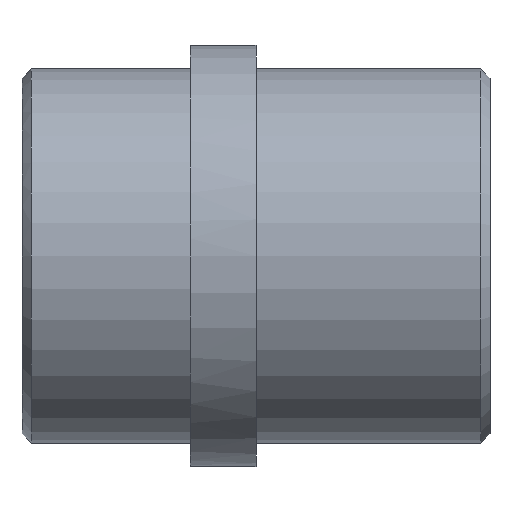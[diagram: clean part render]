
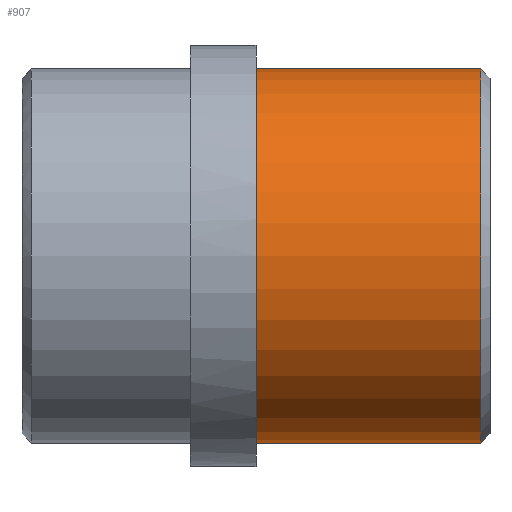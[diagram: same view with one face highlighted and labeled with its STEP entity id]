
A CAD part, front view. The second image highlights one B-rep face of the part: STEP entity #907.
In plain terms, the highlighted cylindrical face has radius 20 mm (diameter 40 mm), a partial arc.
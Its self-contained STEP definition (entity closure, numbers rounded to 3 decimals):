
#773=CARTESIAN_POINT('Vertex',(0.,0.,-20.)) ;
#778=CARTESIAN_POINT('Axis2P3D Location',(0.,0.,0.)) ;
#782=CARTESIAN_POINT('Vertex',(0.,-20.,0.)) ;
#785=CARTESIAN_POINT('Axis2P3D Location',(0.,0.,0.)) ;
#789=CARTESIAN_POINT('Vertex',(0.,0.,20.)) ;
#813=CARTESIAN_POINT('Vertex',(24.,0.,20.)) ;
#820=CARTESIAN_POINT('Vertex',(24.,0.,-20.)) ;
#849=CARTESIAN_POINT('Axis2P3D Location',(24.,0.,0.)) ;
#853=CARTESIAN_POINT('Vertex',(24.,-20.,0.)) ;
#856=CARTESIAN_POINT('Axis2P3D Location',(24.,0.,0.)) ;
#875=CARTESIAN_POINT('Line Origine',(25.,0.,20.)) ;
#880=CARTESIAN_POINT('Line Origine',(25.,0.,-20.)) ;
#894=CARTESIAN_POINT('Axis2P3D Location',(25.,0.,0.)) ;
#779=DIRECTION('Axis2P3D Direction',(1.,0.,-0.)) ;
#786=DIRECTION('Axis2P3D Direction',(1.,0.,-0.)) ;
#850=DIRECTION('Axis2P3D Direction',(-1.,0.,0.)) ;
#857=DIRECTION('Axis2P3D Direction',(-1.,0.,0.)) ;
#876=DIRECTION('Vector Direction',(-1.,0.,0.)) ;
#881=DIRECTION('Vector Direction',(-1.,0.,0.)) ;
#895=DIRECTION('Axis2P3D Direction',(-1.,-0.,-0.)) ;
#896=DIRECTION('Axis2P3D XDirection',(0.,0.,-1.)) ;
#780=AXIS2_PLACEMENT_3D('Circle Axis2P3D',#778,#779,$) ;
#787=AXIS2_PLACEMENT_3D('Circle Axis2P3D',#785,#786,$) ;
#851=AXIS2_PLACEMENT_3D('Circle Axis2P3D',#849,#850,$) ;
#858=AXIS2_PLACEMENT_3D('Circle Axis2P3D',#856,#857,$) ;
#897=AXIS2_PLACEMENT_3D('Cylinder Axis2P3D',#894,#895,#896) ;
#900=ORIENTED_EDGE('',*,*,#884,.T.) ;
#901=ORIENTED_EDGE('',*,*,#860,.F.) ;
#902=ORIENTED_EDGE('',*,*,#855,.F.) ;
#903=ORIENTED_EDGE('',*,*,#879,.T.) ;
#904=ORIENTED_EDGE('',*,*,#791,.T.) ;
#905=ORIENTED_EDGE('',*,*,#784,.T.) ;
#877=VECTOR('Line Direction',#876,1.) ;
#882=VECTOR('Line Direction',#881,1.) ;
#907=ADVANCED_FACE('354-32X50',(#906),#898,.T.) ;
#781=CIRCLE('generated circle',#780,20.) ;
#788=CIRCLE('generated circle',#787,20.) ;
#852=CIRCLE('generated circle',#851,20.) ;
#859=CIRCLE('generated circle',#858,20.) ;
#898=CYLINDRICAL_SURFACE('generated cylinder',#897,20.) ;
#784=EDGE_CURVE('',#783,#774,#781,.T.) ;
#791=EDGE_CURVE('',#790,#783,#788,.T.) ;
#855=EDGE_CURVE('',#814,#854,#852,.F.) ;
#860=EDGE_CURVE('',#854,#821,#859,.F.) ;
#879=EDGE_CURVE('',#814,#790,#878,.T.) ;
#884=EDGE_CURVE('',#774,#821,#883,.F.) ;
#899=EDGE_LOOP('',(#900,#901,#902,#903,#904,#905)) ;
#906=FACE_OUTER_BOUND('',#899,.T.) ;
#878=LINE('Line',#875,#877) ;
#883=LINE('Line',#880,#882) ;
#774=VERTEX_POINT('',#773) ;
#783=VERTEX_POINT('',#782) ;
#790=VERTEX_POINT('',#789) ;
#814=VERTEX_POINT('',#813) ;
#821=VERTEX_POINT('',#820) ;
#854=VERTEX_POINT('',#853) ;
